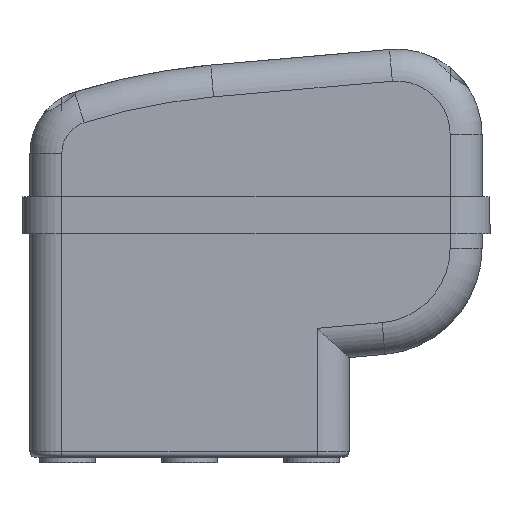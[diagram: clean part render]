
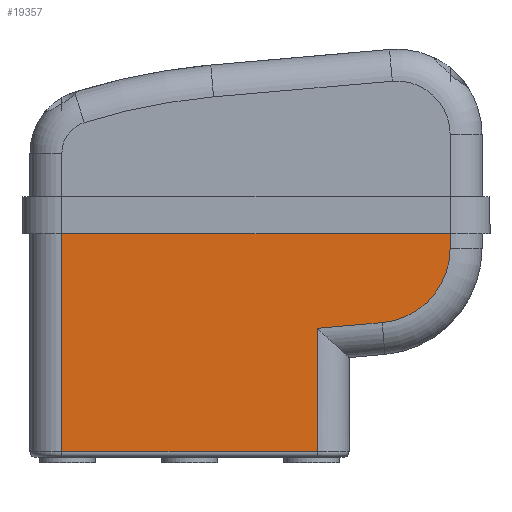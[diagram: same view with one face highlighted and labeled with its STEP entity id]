
A CAD part, front view. The second image highlights one B-rep face of the part: STEP entity #19357.
In plain terms, the highlighted planar face has unit normal (0, -1, 0).
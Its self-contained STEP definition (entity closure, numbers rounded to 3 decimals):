
#504 = ORIENTED_EDGE ( 'NONE', *, *, #16141, .T. ) ;
#1560 = CARTESIAN_POINT ( 'NONE',  ( 34., -145., 1. ) ) ;
#1741 = CARTESIAN_POINT ( 'NONE',  ( -14., -145., 0. ) ) ;
#2034 = VERTEX_POINT ( 'NONE', #21232 ) ;
#2158 = LINE ( 'NONE', #14483, #10487 ) ;
#2375 = LINE ( 'NONE', #11574, #12554 ) ;
#2584 = LINE ( 'NONE', #21936, #12323 ) ;
#2800 = PLANE ( 'NONE',  #16801 ) ;
#2869 = ORIENTED_EDGE ( 'NONE', *, *, #10367, .T. ) ;
#3119 = CARTESIAN_POINT ( 'NONE',  ( -14., -145., 1. ) ) ;
#4552 = DIRECTION ( 'NONE',  ( 0., 0., -1. ) ) ;
#4695 = EDGE_LOOP ( 'NONE', ( #15512, #2869, #19323, #9564, #10079, #504, #7338 ) ) ;
#5441 = LINE ( 'NONE', #19534, #14555 ) ;
#5822 = CIRCLE ( 'NONE', #18831, 14. ) ;
#7119 = DIRECTION ( 'NONE',  ( 0., 0., -1. ) ) ;
#7338 = ORIENTED_EDGE ( 'NONE', *, *, #12098, .F. ) ;
#7494 = EDGE_CURVE ( 'NONE', #2034, #11713, #5822, .T. ) ;
#7807 = CARTESIAN_POINT ( 'NONE',  ( -14., -145., 44. ) ) ;
#7977 = DIRECTION ( 'NONE',  ( 0., 0., 1. ) ) ;
#8415 = DIRECTION ( 'NONE',  ( 0., -1., 0. ) ) ;
#8759 = CARTESIAN_POINT ( 'NONE',  ( 34., -145., 24.248 ) ) ;
#9564 = ORIENTED_EDGE ( 'NONE', *, *, #19538, .T. ) ;
#9681 = DIRECTION ( 'NONE',  ( 0., -1., 0. ) ) ;
#9827 = VERTEX_POINT ( 'NONE', #8759 ) ;
#10079 = ORIENTED_EDGE ( 'NONE', *, *, #7494, .T. ) ;
#10367 = EDGE_CURVE ( 'NONE', #18371, #10545, #21649, .T. ) ;
#10487 = VECTOR ( 'NONE', #19882, 1000. ) ;
#10545 = VERTEX_POINT ( 'NONE', #10880 ) ;
#10819 = LINE ( 'NONE', #1741, #14865 ) ;
#10880 = CARTESIAN_POINT ( 'NONE',  ( 34., -145., 1. ) ) ;
#11077 = EDGE_CURVE ( 'NONE', #22034, #18371, #10819, .T. ) ;
#11539 = FACE_OUTER_BOUND ( 'NONE', #4695, .T. ) ;
#11574 = CARTESIAN_POINT ( 'NONE',  ( 59., -145., 44. ) ) ;
#11713 = VERTEX_POINT ( 'NONE', #12273 ) ;
#12098 = EDGE_CURVE ( 'NONE', #22034, #16765, #2584, .T. ) ;
#12273 = CARTESIAN_POINT ( 'NONE',  ( 59., -145., 39.264 ) ) ;
#12323 = VECTOR ( 'NONE', #14916, 1000. ) ;
#12554 = VECTOR ( 'NONE', #7977, 1000. ) ;
#13523 = CARTESIAN_POINT ( 'NONE',  ( 30., -145., 10.848 ) ) ;
#14483 = CARTESIAN_POINT ( 'NONE',  ( 28.867, -145., 23.799 ) ) ;
#14555 = VECTOR ( 'NONE', #16021, 1000. ) ;
#14865 = VECTOR ( 'NONE', #7119, 1000. ) ;
#14916 = DIRECTION ( 'NONE',  ( 1., 0., 0. ) ) ;
#15453 = VECTOR ( 'NONE', #19164, 1000. ) ;
#15492 = CARTESIAN_POINT ( 'NONE',  ( 45., -145., 39.264 ) ) ;
#15512 = ORIENTED_EDGE ( 'NONE', *, *, #11077, .T. ) ;
#16021 = DIRECTION ( 'NONE',  ( 0., 0., 1. ) ) ;
#16141 = EDGE_CURVE ( 'NONE', #11713, #16765, #2375, .T. ) ;
#16765 = VERTEX_POINT ( 'NONE', #22856 ) ;
#16801 = AXIS2_PLACEMENT_3D ( 'NONE', #13523, #9681, #4552 ) ;
#18371 = VERTEX_POINT ( 'NONE', #3119 ) ;
#18831 = AXIS2_PLACEMENT_3D ( 'NONE', #15492, #8415, #22628 ) ;
#19164 = DIRECTION ( 'NONE',  ( 1., 0., 0. ) ) ;
#19323 = ORIENTED_EDGE ( 'NONE', *, *, #21128, .T. ) ;
#19357 = ADVANCED_FACE ( 'NONE', ( #11539 ), #2800, .T. ) ;
#19534 = CARTESIAN_POINT ( 'NONE',  ( 34., -145., 19.899 ) ) ;
#19538 = EDGE_CURVE ( 'NONE', #9827, #2034, #2158, .T. ) ;
#19882 = DIRECTION ( 'NONE',  ( 0.996, 0., 0.087 ) ) ;
#21128 = EDGE_CURVE ( 'NONE', #10545, #9827, #5441, .T. ) ;
#21232 = CARTESIAN_POINT ( 'NONE',  ( 46.22, -145., 25.317 ) ) ;
#21649 = LINE ( 'NONE', #1560, #15453 ) ;
#21936 = CARTESIAN_POINT ( 'NONE',  ( 62., -145., 44. ) ) ;
#22034 = VERTEX_POINT ( 'NONE', #7807 ) ;
#22628 = DIRECTION ( 'NONE',  ( 0., 0., -1. ) ) ;
#22856 = CARTESIAN_POINT ( 'NONE',  ( 59., -145., 44. ) ) ;
